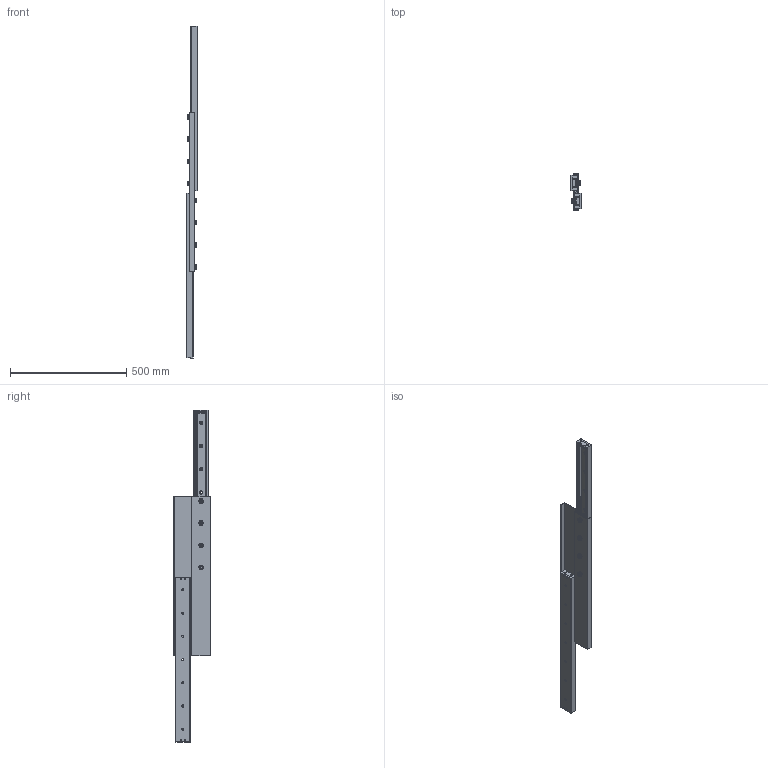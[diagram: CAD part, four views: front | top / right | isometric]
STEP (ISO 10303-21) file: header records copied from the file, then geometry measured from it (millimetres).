
FILE_DESCRIPTION (( 'STEP AP214' ), '1' );
FILE_NAME ('LSIM65DVL.STEP', '2021-06-13T23:49:11', ( '' ), ( '' ), 'SwSTEP 2.0', 'SolidWorks 2019', '' );
FILE_SCHEMA (( 'AUTOMOTIVE_DESIGN' ));
Length unit declared in the file: millimetre
Products named in the file (4): LSIM65DVLリテーナ; LSIM65ストッパー; LSIM65DVL; LSIM65DVLレール
Assembly tree (7 placements, depth 2):
  LSIM65DVL
    LSIM65DVLレール  x2
    LSIM65DVLリテーナ
    LSIM65ストッパー  x4
Bounding box: 48 x 160 x 1430 mm (x, y, z)
Volume: 2136685.3 mm3; surface area: 693977.3 mm2
Topology: 7 solids, 7 shells, 496 faces, 1088 edges, 692 vertices
Faces by surface type: plane 256, cylinder 128, cone 104, torus 8
Full cylindrical faces by diameter (mm): 4.2 x8, 5 x8, 8.5 x8, 9 x14, 9.5 x8, 10 x8, 14 x14, 16 x8, 18 x8, 35 x16
Entity records: 9678 total; most frequent: CARTESIAN_POINT 2531, DIRECTION 1420, ORIENTED_EDGE 1292, EDGE_CURVE 646, AXIS2_PLACEMENT_3D 613, EDGE_LOOP 500, VERTEX_POINT 444, FACE_OUTER_BOUND 415
